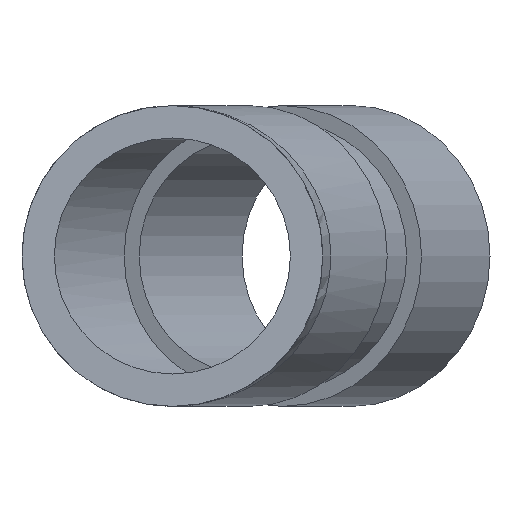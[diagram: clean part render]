
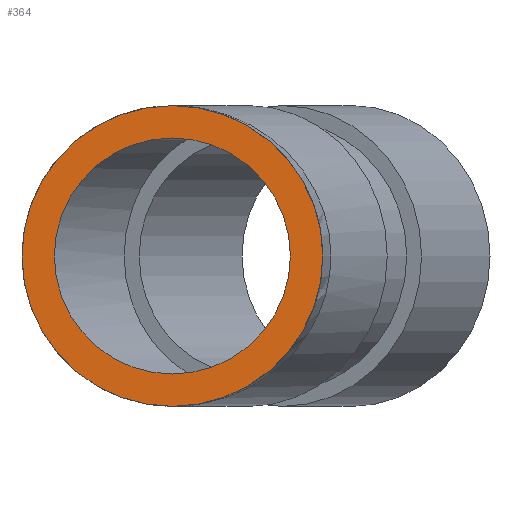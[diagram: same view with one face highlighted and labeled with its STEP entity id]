
A CAD part, front view. The second image highlights one B-rep face of the part: STEP entity #364.
In plain terms, the highlighted planar face has unit normal (0, -1, 0).
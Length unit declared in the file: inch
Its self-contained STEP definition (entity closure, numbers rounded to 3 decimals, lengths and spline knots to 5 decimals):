
#52=FACE_BOUND('',#155,.T.);
#60=PLANE('',#427);
#97=CIRCLE('',#428,0.525);
#98=CIRCLE('',#429,0.412);
#129=FACE_OUTER_BOUND('',#154,.T.);
#154=EDGE_LOOP('',(#302));
#155=EDGE_LOOP('',(#303));
#193=VERTEX_POINT('',#735);
#194=VERTEX_POINT('',#737);
#231=EDGE_CURVE('',#193,#193,#97,.T.);
#232=EDGE_CURVE('',#194,#194,#98,.T.);
#302=ORIENTED_EDGE('',*,*,#231,.T.);
#303=ORIENTED_EDGE('',*,*,#232,.T.);
#364=ADVANCED_FACE('',(#129,#52),#60,.F.);
#427=AXIS2_PLACEMENT_3D('',#734,#533,#534);
#428=AXIS2_PLACEMENT_3D('',#736,#535,#536);
#429=AXIS2_PLACEMENT_3D('',#738,#537,#538);
#533=DIRECTION('center_axis',(0.,1.,0.));
#534=DIRECTION('ref_axis',(0.,0.,1.));
#535=DIRECTION('center_axis',(0.,-1.,0.));
#536=DIRECTION('ref_axis',(1.,0.,0.));
#537=DIRECTION('center_axis',(0.,1.,0.));
#538=DIRECTION('ref_axis',(1.,0.,0.));
#734=CARTESIAN_POINT('Origin',(0.,0.,0.));
#735=CARTESIAN_POINT('',(-0.525,0.,0.));
#736=CARTESIAN_POINT('Origin',(0.,0.,0.));
#737=CARTESIAN_POINT('',(-0.412,0.,0.));
#738=CARTESIAN_POINT('Origin',(0.,0.,0.));
